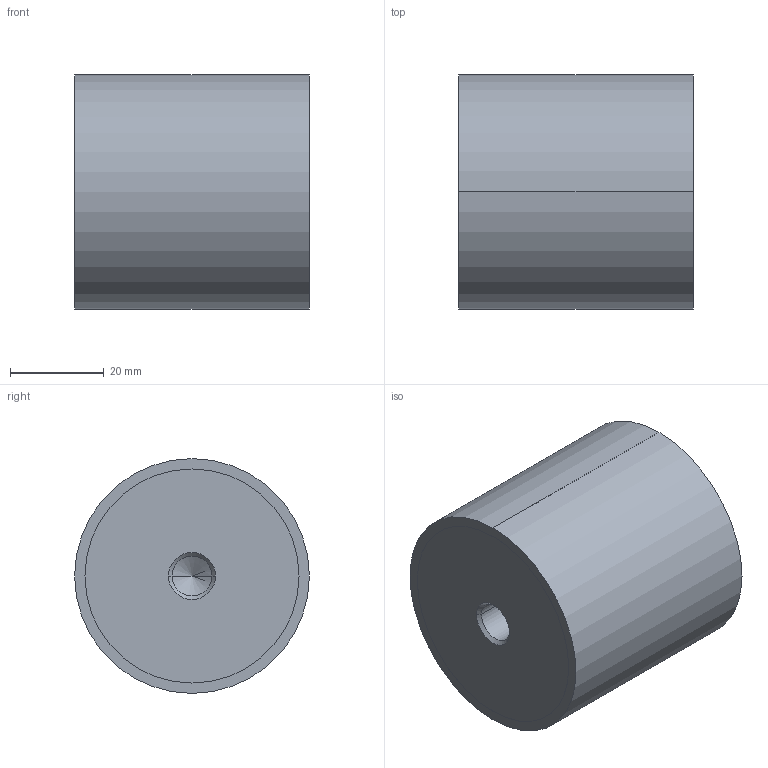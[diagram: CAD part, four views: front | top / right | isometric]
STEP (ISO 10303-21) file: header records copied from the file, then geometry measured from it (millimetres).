
FILE_DESCRIPTION (( 'STEP AP214' ), '1' );
FILE_NAME ('451-50-50-M10-EE-55.step', '2020-03-05T09:13:50', ( '' ), ( '' ), 'SwSTEP 2.0', 'SolidWorks 2019', '' );
FILE_SCHEMA (( 'AUTOMOTIVE_DESIGN' ));
Length unit declared in the file: millimetre
Products named in the file (1): 451-50-50-M10-EE-55
Bounding box: 50 x 50 x 50 mm (x, y, z)
Volume: 96896.3 mm3; surface area: 12314.6 mm2
Topology: 1 solids, 1 shells, 22 faces, 46 edges, 26 vertices
Faces by surface type: cylinder 10, cone 8, plane 4
Entity records: 684 total; most frequent: DIRECTION 112, CARTESIAN_POINT 91, ORIENTED_EDGE 84, AXIS2_PLACEMENT_3D 47, EDGE_CURVE 42, VERTEX_POINT 26, EDGE_LOOP 26, CIRCLE 24
